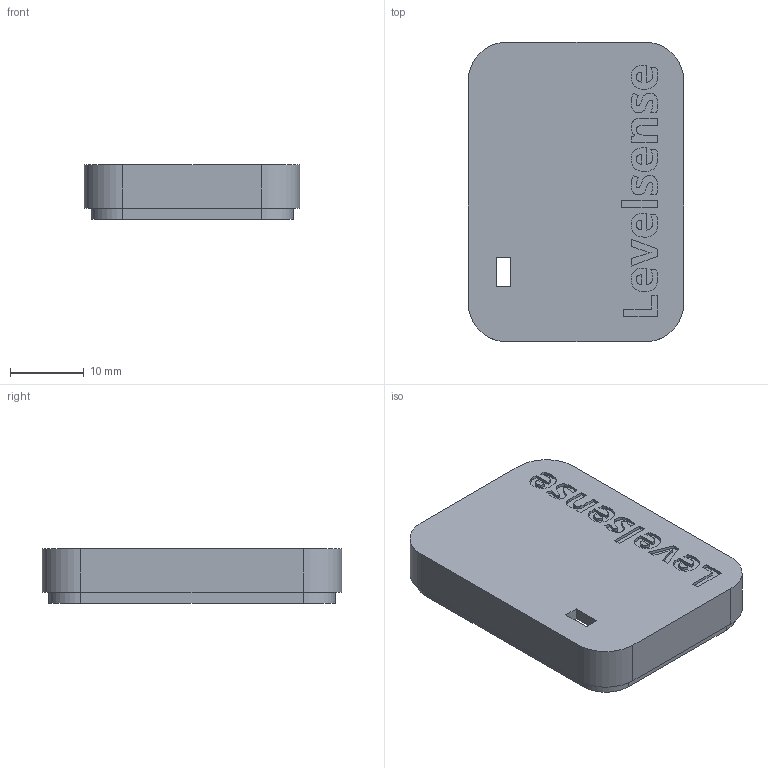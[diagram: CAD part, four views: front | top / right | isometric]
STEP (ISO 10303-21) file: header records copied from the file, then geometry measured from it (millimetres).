
FILE_DESCRIPTION(/* description */ ('STEP AP242 Edition 2','CAx-IF Rec.Pracs.---Representation and Presentation of Product Manufacturing Information (PMI)---4.0---2014-10-13','CAx-IF Rec.Pracs.---3D Tessellated Geometry---0.4---2014-09-14','2;1','CAx-IF Rec.Pracs.---User Defined Attributes---1.5---2016-08-15'),/* implementation_level */ '2;1');
FILE_NAME(/* name */ 'Assembly 1 - Bottom cover',/* time_stamp */ '2026-09-16T18:36:09Z',/* author */ (''),/* organization */ (''),/* preprocessor_version */ 'ST-DEVELOPER v20',/* originating_system */ 'ONSHAPE BY PTC INC, 1.220',/* authorisation */ ' ');
FILE_SCHEMA (('AP242_MANAGED_MODEL_BASED_3D_ENGINEERING_MIM_LF { 1 0 10303 442 3 1 4 }'));
Length unit declared in the file: centimetre
Products named in the file (1): Bottom cover
Bounding box: 29.23 x 40.66 x 7.4 mm (x, y, z)
Volume: 2751.1 mm3; surface area: 4047.7 mm2
Topology: 1 solids, 1 shells, 224 faces, 621 edges, 414 vertices
Faces by surface type: bspline 87, plane 86, cylinder 51
Entity records: 7487 total; most frequent: CARTESIAN_POINT 2217, ORIENTED_EDGE 1242, DIRECTION 827, EDGE_CURVE 621, VERTEX_POINT 414, LINE 343, VECTOR 343, EDGE_LOOP 243
